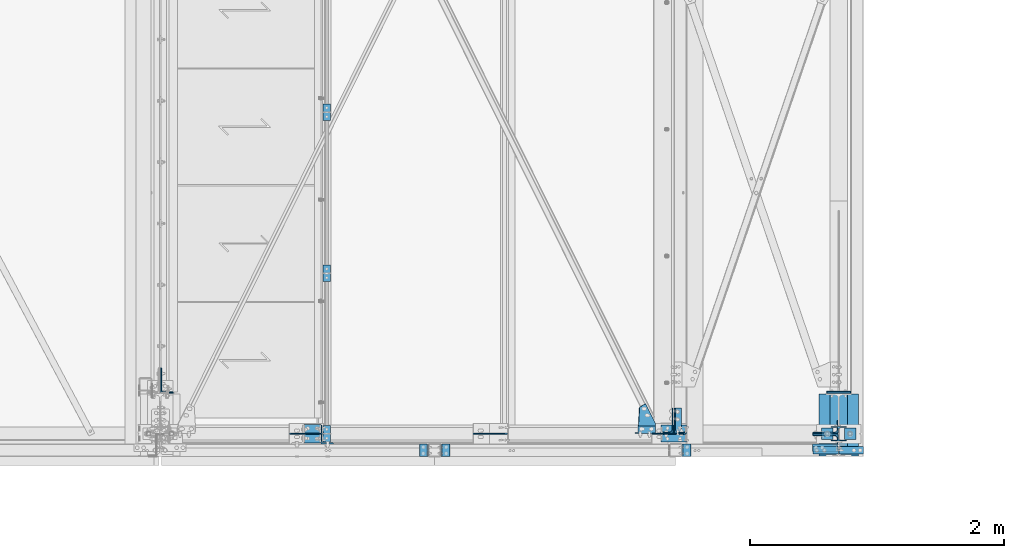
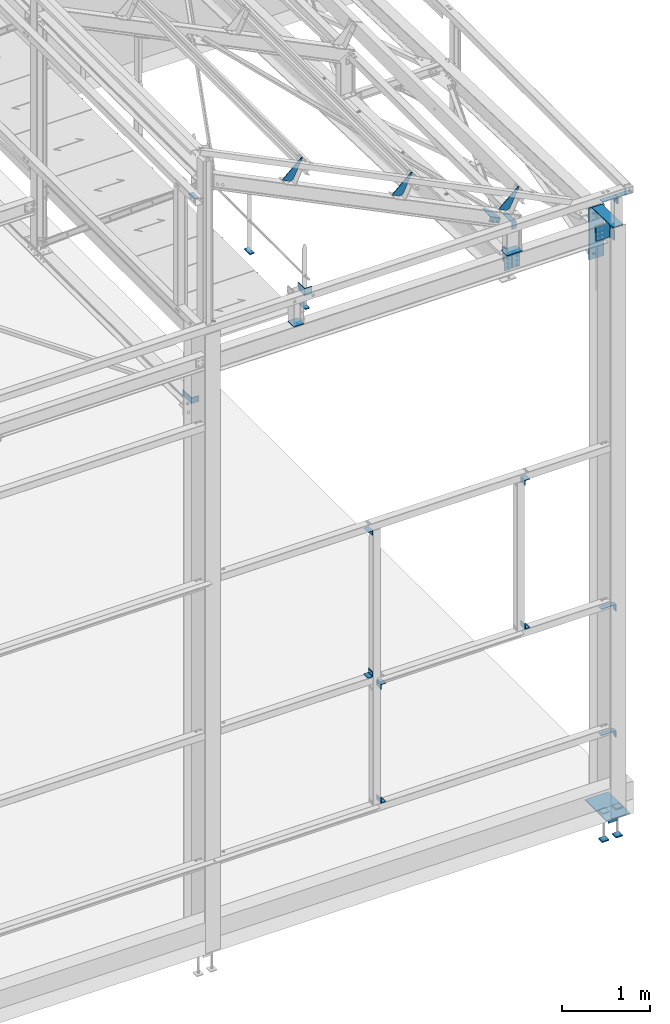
# One storey, part 105 of 362: 30 beams, 5 members, 28 elements without a shape of their own.
"""IFC2X3 building model written with IfcOpenShell, lengths in millimetres."""

from ifc_helpers import new_model, si_unit, frame, origin_with_axes, origin_2d_with_axis, place, context, subcontext, project, spatial, polyline, rectangle, i_section, l_section, outline, extrude, clip, halfspace, material, type_object, element, aggregate, save


model = new_model("IFC2X3")

# Units and contexts
model_context = context("Model", 3, precision=1e-05, world=origin_with_axes())
body_context = subcontext(model_context, "Body", "Model", "MODEL_VIEW")
ifc_project = project(units=[si_unit("LENGTHUNIT", "METRE", prefix="MILLI"), si_unit("AREAUNIT", "SQUARE_METRE"), si_unit("VOLUMEUNIT", "CUBIC_METRE"), si_unit("MASSUNIT", "GRAM", prefix="KILO"), si_unit("TIMEUNIT", "SECOND"), si_unit("PLANEANGLEUNIT", "RADIAN"), si_unit("SOLIDANGLEUNIT", "STERADIAN"), si_unit("THERMODYNAMICTEMPERATUREUNIT", "DEGREE_CELSIUS"), si_unit("LUMINOUSINTENSITYUNIT", "LUMEN")], contexts=[model_context])

# Site, building, storey
site_placement = place(None, origin_with_axes())
site = spatial("IfcSite", under=ifc_project, at=site_placement, Name="Undefined", CompositionType="ELEMENT")
building_placement = place(site_placement, origin_with_axes())
building = spatial("IfcBuilding", under=site, at=building_placement, Name="Undefined", CompositionType="ELEMENT")
storey_placement = place(building_placement, origin_with_axes())
storey = spatial("IfcBuildingStorey", under=building, at=storey_placement, Name="Undefined", CompositionType="ELEMENT", Elevation=0.0)

# Assembly, beams
assembly_1_placement = place(storey_placement, origin_with_axes())
assembly_1 = element("IfcElementAssembly", 1, at=assembly_1_placement, inside=storey, Name="MAIN COURANTE", AssemblyPlace="NOTDEFINED", PredefinedType="NOTDEFINED")
ifc_material_1 = material(Name="Undefined/S235-E24")
beam_type_1 = type_object("IfcBeamType", Name="PL10*60", PredefinedType="NOTDEFINED")
beam_1_placement = place(assembly_1_placement, frame((35593.9917124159, 64.9999991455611, 8245.00000819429), z_axis=(-1.0, 0.0, 0.0), x_axis=(0.0, -1.0, 0.0)))
beam_1 = element("IfcBeam", 2, at=beam_1_placement, type_object=beam_type_1, material=ifc_material_1, Name="PLATINE", ObjectType="PL10*60", context=body_context, shape_type="SweptSolid", body=[
    extrude(rectangle(XDim=10.0, YDim=60.0, at=origin_2d_with_axis()), frame((130.0, 0.0, 0.0), z_axis=(-1.0, 0.0, 0.0), x_axis=(0.0, -1.0, 0.0)), (0.0, 0.0, 1.0), 130.0),
])
beam_2_placement = place(assembly_1_placement, frame((35593.9917124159, 1330.00343196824, 8245.00000819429), z_axis=(-1.0, 0.0, 0.0), x_axis=(0.0, -1.0, 0.0)))
beam_2 = element("IfcBeam", 3, at=beam_2_placement, type_object=beam_type_1, material=ifc_material_1, Name="PLATINE", ObjectType="PL10*60", context=body_context, shape_type="SweptSolid", body=[
    extrude(rectangle(XDim=10.0, YDim=60.0, at=origin_2d_with_axis()), frame((130.0, 0.0, 0.0), z_axis=(-1.0, 0.0, 0.0), x_axis=(0.0, -1.0, 0.0)), (0.0, 0.0, 1.0), 130.0),
])
beam_3_placement = place(assembly_1_placement, frame((35593.991713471, 2600.00343196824, 8245.00000732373), z_axis=(-1.0, 0.0, 0.0), x_axis=(0.0, -1.0, 0.0)))
beam_3 = element("IfcBeam", 4, at=beam_3_placement, type_object=beam_type_1, material=ifc_material_1, Name="PLATINE", ObjectType="PL10*60", context=body_context, shape_type="SweptSolid", body=[
    extrude(rectangle(XDim=10.0, YDim=60.0, at=origin_2d_with_axis()), frame((130.0, 0.0, 0.0), z_axis=(-1.0, 0.0, 0.0), x_axis=(0.0, -1.0, 0.0)), (0.0, 0.0, 1.0), 130.0),
])
aggregate(assembly_1, [beam_1, beam_2, beam_3])

# Assembly, beam
assembly_2_placement = place(storey_placement, origin_with_axes())
assembly_2 = element("IfcElementAssembly", 5, at=assembly_2_placement, inside=storey, Name="TRAVERSE SHED", AssemblyPlace="NOTDEFINED", PredefinedType="NOTDEFINED")
beam_type_2 = type_object("IfcBeamType", Name="PL10*200", PredefinedType="NOTDEFINED")
beam_4_placement = place(assembly_2_placement, frame((38330.0, 70.7648225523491, 8052.7804668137), z_axis=(-1.0, 0.0, 0.0), x_axis=(0.0, -0.999506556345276, 0.031410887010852)))
beam_4 = element("IfcBeam", 6, at=beam_4_placement, type_object=beam_type_2, material=ifc_material_1, Name="PLATINE", ObjectType="PL10*200", context=body_context, shape_type="SweptSolid", body=[
    extrude(rectangle(XDim=10.0, YDim=200.0, at=origin_2d_with_axis()), frame((134.999999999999, 9.36750677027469e-16, 0.0), z_axis=(-1.0, 0.0, 0.0), x_axis=(0.0, -1.0, 0.0)), (0.0, 0.0, 1.0), 135.0),
])
aggregate(assembly_2, [beam_4])

assembly_3_placement = place(storey_placement, origin_with_axes())
assembly_3 = element("IfcElementAssembly", 7, at=assembly_3_placement, inside=storey, AssemblyPlace="NOTDEFINED", PredefinedType="NOTDEFINED")
beam_type_3 = type_object("IfcBeamType", Name="L70*7", PredefinedType="NOTDEFINED")
beam_5_placement = place(assembly_3_placement, frame((36530.0025822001, -180.000008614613, 1135.0), z_axis=(0.0, 0.0, 1.0), x_axis=(0.0, 1.0, 0.0)))
beam_5 = element("IfcBeam", 8, at=beam_5_placement, type_object=beam_type_3, material=ifc_material_1, Name="ATTACHE", ObjectType="L70*7", context=body_context, shape_type="SweptSolid", body=[
    extrude(l_section(Depth=70.0, Width=70.0, Thickness=7.0, FilletRadius=9.0, EdgeRadius=4.5, at=origin_2d_with_axis()), frame((99.9999999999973, -1.63709046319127e-11, 7.73070496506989e-12), z_axis=(-1.0, 0.0, 0.0), x_axis=(0.0, -1.0, 0.0)), (0.0, 0.0, 1.0), 100.0),
])
aggregate(assembly_3, [beam_5])

assembly_4_placement = place(storey_placement, origin_with_axes())
assembly_4 = element("IfcElementAssembly", 9, at=assembly_4_placement, inside=storey, AssemblyPlace="NOTDEFINED", PredefinedType="NOTDEFINED")
beam_6_placement = place(assembly_4_placement, frame((36530.0025836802, -80.0000086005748, 2725.0), z_axis=(0.0, 0.0, -1.0), x_axis=(0.0, -1.0, 0.0)))
beam_6 = element("IfcBeam", 10, at=beam_6_placement, type_object=beam_type_3, material=ifc_material_1, Name="ATTACHE", ObjectType="L70*7", context=body_context, shape_type="SweptSolid", body=[
    extrude(l_section(Depth=70.0, Width=70.0, Thickness=7.0, FilletRadius=9.0, EdgeRadius=4.5, at=origin_2d_with_axis()), frame((99.9999999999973, -1.63709046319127e-11, 7.73070496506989e-12), z_axis=(-1.0, 0.0, 0.0), x_axis=(0.0, -1.0, 0.0)), (0.0, 0.0, 1.0), 100.0),
])
aggregate(assembly_4, [beam_6])

assembly_5_placement = place(storey_placement, origin_with_axes())
assembly_5 = element("IfcElementAssembly", 11, at=assembly_5_placement, inside=storey, AssemblyPlace="NOTDEFINED", PredefinedType="NOTDEFINED")
beam_7_placement = place(assembly_5_placement, frame((38429.9947669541, -180.000008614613, 2895.0), z_axis=(0.0, 0.0, 1.0), x_axis=(0.0, 1.0, 0.0)))
beam_7 = element("IfcBeam", 12, at=beam_7_placement, type_object=beam_type_3, material=ifc_material_1, Name="ATTACHE", ObjectType="L70*7", context=body_context, shape_type="SweptSolid", body=[
    extrude(l_section(Depth=70.0, Width=70.0, Thickness=7.0, FilletRadius=9.0, EdgeRadius=4.5, at=origin_2d_with_axis()), frame((99.9999999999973, -1.63709046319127e-11, 7.73070496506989e-12), z_axis=(-1.0, 0.0, 0.0), x_axis=(0.0, -1.0, 0.0)), (0.0, 0.0, 1.0), 100.0),
])
aggregate(assembly_5, [beam_7])

assembly_6_placement = place(storey_placement, origin_with_axes())
assembly_6 = element("IfcElementAssembly", 13, at=assembly_6_placement, inside=storey, AssemblyPlace="NOTDEFINED", PredefinedType="NOTDEFINED")
beam_8_placement = place(assembly_6_placement, frame((38429.994766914, -80.0000086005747, 4905.0), z_axis=(0.0, 0.0, -1.0), x_axis=(0.0, -1.0, 0.0)))
beam_8 = element("IfcBeam", 14, at=beam_8_placement, type_object=beam_type_3, material=ifc_material_1, Name="ATTACHE", ObjectType="L70*7", context=body_context, shape_type="SweptSolid", body=[
    extrude(l_section(Depth=70.0, Width=70.0, Thickness=7.0, FilletRadius=9.0, EdgeRadius=4.5, at=origin_2d_with_axis()), frame((99.9999999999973, -1.63709046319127e-11, 7.73070496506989e-12), z_axis=(-1.0, 0.0, 0.0), x_axis=(0.0, -1.0, 0.0)), (0.0, 0.0, 1.0), 100.0),
])
aggregate(assembly_6, [beam_8])

assembly_7_placement = place(storey_placement, origin_with_axes())
assembly_7 = element("IfcElementAssembly", 15, at=assembly_7_placement, inside=storey, AssemblyPlace="NOTDEFINED", PredefinedType="NOTDEFINED")
beam_9_placement = place(assembly_7_placement, frame((36360.0025831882, -80.0000086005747, 2935.0), z_axis=(0.0, 0.0, 1.0), x_axis=(0.0, -1.0, 0.0)))
beam_9 = element("IfcBeam", 16, at=beam_9_placement, type_object=beam_type_3, material=ifc_material_1, Name="ATTACHE", ObjectType="L70*7", context=body_context, shape_type="SweptSolid", body=[
    extrude(l_section(Depth=70.0, Width=70.0, Thickness=7.0, FilletRadius=9.0, EdgeRadius=4.5, at=origin_2d_with_axis()), frame((99.9999999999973, -1.63709046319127e-11, 7.73070496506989e-12), z_axis=(-1.0, 0.0, 0.0), x_axis=(0.0, -1.0, 0.0)), (0.0, 0.0, 1.0), 100.0),
])
aggregate(assembly_7, [beam_9])

assembly_8_placement = place(storey_placement, origin_with_axes())
assembly_8 = element("IfcElementAssembly", 17, at=assembly_8_placement, inside=storey, AssemblyPlace="NOTDEFINED", PredefinedType="NOTDEFINED")
beam_10_placement = place(assembly_8_placement, frame((36360.0025836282, -180.000008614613, 4905.0), z_axis=(0.0, 0.0, -1.0), x_axis=(0.0, 1.0, 0.0)))
beam_10 = element("IfcBeam", 18, at=beam_10_placement, type_object=beam_type_3, material=ifc_material_1, Name="ATTACHE", ObjectType="L70*7", context=body_context, shape_type="SweptSolid", body=[
    extrude(l_section(Depth=70.0, Width=70.0, Thickness=7.0, FilletRadius=9.0, EdgeRadius=4.5, at=origin_2d_with_axis()), frame((99.9999999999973, -1.63709046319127e-11, 7.73070496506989e-12), z_axis=(-1.0, 0.0, 0.0), x_axis=(0.0, -1.0, 0.0)), (0.0, 0.0, 1.0), 100.0),
])
aggregate(assembly_8, [beam_10])

# Assembly, member
assembly_9_placement = place(storey_placement, origin_with_axes())
assembly_9 = element("IfcElementAssembly", 19, at=assembly_9_placement, inside=storey, AssemblyPlace="NOTDEFINED", PredefinedType="NOTDEFINED")
member_type_1 = type_object("IfcMemberType", Name="L60*6", PredefinedType="NOTDEFINED")
member_1_placement = place(assembly_9_placement, frame((38170.5286331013, 33.000281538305, 8526.02565738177), z_axis=(0.0, 1.0, 0.0), x_axis=(-0.897398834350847, -3.60000012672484e-08, 0.441220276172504)))
member_1 = element("IfcMember", 20, at=member_1_placement, type_object=member_type_1, material=ifc_material_1, Name="ATTACHE", ObjectType="L60*6", context=body_context, shape_type="SweptSolid", body=[
    extrude(l_section(Depth=60.0, Width=60.0, Thickness=6.0, FilletRadius=8.0, EdgeRadius=4.0, at=origin_2d_with_axis()), frame((150.0, 0.0, 0.0), z_axis=(-1.0, 0.0, 0.0), x_axis=(0.0, -1.0, 0.0)), (0.0, 0.0, 1.0), 150.0),
])
aggregate(assembly_9, [member_1])

# Assembly, beam
assembly_10_placement = place(storey_placement, origin_with_axes())
assembly_10 = element("IfcElementAssembly", 21, at=assembly_10_placement, inside=storey, Name="PANNE SHED", AssemblyPlace="NOTDEFINED", PredefinedType="NOTDEFINED")
beam_type_4 = type_object("IfcBeamType", Name="TOLE8*140", PredefinedType="NOTDEFINED")
beam_11_placement = place(assembly_10_placement, frame((38167.3881652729, 0.0, 8712.54750741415), z_axis=(0.0, -1.0, 0.0), x_axis=(-0.441220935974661, 0.0, -0.89739850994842)))
beam_11 = element("IfcBeam", 22, at=beam_11_placement, type_object=beam_type_4, material=ifc_material_1, Name="RAIDISSEUR", ObjectType="TOLE8*140", context=body_context, shape_type="SweptSolid", body=[
    extrude(outline(polyline([(0.0, 0.0), (19.9999999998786, -3.63797880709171e-12), (20.0000000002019, 109.999999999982), (-9.99999999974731, 139.99998998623), (-300.0000000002, 139.999893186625), (-300.000000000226, 119.999893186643), (0.0, 0.0)])), frame((0.0, 0.0, -4.0), z_axis=(0.0, 0.0, 1.0), x_axis=(1.0, 0.0, 0.0)), (0.0, 0.0, 1.0), 8.0),
])
aggregate(assembly_10, [beam_11])

assembly_11_placement = place(storey_placement, origin_with_axes())
assembly_11 = element("IfcElementAssembly", 23, at=assembly_11_placement, inside=storey, Name="PANNE SHED", AssemblyPlace="NOTDEFINED", PredefinedType="NOTDEFINED")
beam_12_placement = place(assembly_11_placement, frame((36758.937741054, 0.0, 9405.03563331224), z_axis=(0.0, -1.0, 0.0), x_axis=(-0.441220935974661, 0.0, -0.89739850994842)))
beam_12 = element("IfcBeam", 24, at=beam_12_placement, type_object=beam_type_4, material=ifc_material_1, Name="RAIDISSEUR", ObjectType="TOLE8*140", context=body_context, shape_type="SweptSolid", body=[
    extrude(outline(polyline([(0.0, 0.0), (19.9999999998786, -3.63797880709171e-12), (20.0000000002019, 109.999999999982), (-9.99999999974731, 139.99998998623), (-300.0000000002, 139.999893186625), (-300.000000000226, 119.999893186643), (0.0, 0.0)])), frame((0.0, 0.0, -4.0), z_axis=(0.0, 0.0, 1.0), x_axis=(1.0, 0.0, 0.0)), (0.0, 0.0, 1.0), 8.0),
])
aggregate(assembly_11, [beam_12])

assembly_12_placement = place(storey_placement, origin_with_axes())
assembly_12 = element("IfcElementAssembly", 25, at=assembly_12_placement, inside=storey, Name="PANNE SHED", AssemblyPlace="NOTDEFINED", PredefinedType="NOTDEFINED")
beam_13_placement = place(assembly_12_placement, frame((35310.1044072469, 0.0, 10117.3786897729), z_axis=(0.0, -1.0, 0.0), x_axis=(-0.441220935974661, 0.0, -0.89739850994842)))
beam_13 = element("IfcBeam", 26, at=beam_13_placement, type_object=beam_type_4, material=ifc_material_1, Name="RAIDISSEUR", ObjectType="TOLE8*140", context=body_context, shape_type="SweptSolid", body=[
    extrude(outline(polyline([(0.0, 0.0), (19.9999999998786, -3.63797880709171e-12), (20.0000000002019, 109.999999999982), (-9.99999999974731, 139.99998998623), (-300.0000000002, 139.999893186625), (-300.000000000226, 119.999893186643), (0.0, 0.0)])), frame((0.0, 0.0, -4.0), z_axis=(0.0, 0.0, 1.0), x_axis=(1.0, 0.0, 0.0)), (0.0, 0.0, 1.0), 8.0),
])
aggregate(assembly_12, [beam_13])

# Assembly, member
assembly_13_placement = place(storey_placement, origin_with_axes())
assembly_13 = element("IfcElementAssembly", 27, at=assembly_13_placement, inside=storey, AssemblyPlace="NOTDEFINED", PredefinedType="NOTDEFINED")
member_type_2 = type_object("IfcMemberType", Name="L200*100*10", PredefinedType="NOTDEFINED")
member_2_placement = place(assembly_13_placement, frame((38385.000458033, 105.335761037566, 8006.67334803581), z_axis=(3.14103090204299e-11, 0.999506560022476, -0.0314107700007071), x_axis=(-1.05403257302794e-09, -0.0314112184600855, -0.999506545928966)))
member_2 = element("IfcMember", 28, at=member_2_placement, type_object=member_type_2, material=ifc_material_1, Name="ATTACHE", ObjectType="L200*100*10", context=body_context, shape_type="SweptSolid", body=[
    extrude(l_section(Depth=200.0, Width=100.0, Thickness=10.0, FilletRadius=15.0, EdgeRadius=7.5, at=origin_2d_with_axis()), frame((200.0, 0.0, 0.0), z_axis=(-1.0, 0.0, 0.0), x_axis=(0.0, -1.0, 0.0)), (0.0, 0.0, 1.0), 200.0),
])
aggregate(assembly_13, [member_2])

assembly_14_placement = place(storey_placement, origin_with_axes())
assembly_14 = element("IfcElementAssembly", 29, at=assembly_14_placement, inside=storey, AssemblyPlace="NOTDEFINED", PredefinedType="NOTDEFINED")
member_3_placement = place(assembly_14_placement, frame((38274.9995419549, 99.0535857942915, 7806.77206708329), z_axis=(3.14103090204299e-11, 0.999506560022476, -0.0314107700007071), x_axis=(7.58071938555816e-11, 0.0314107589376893, 0.999506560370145)))
member_3 = element("IfcMember", 30, at=member_3_placement, type_object=member_type_2, material=ifc_material_1, Name="ATTACHE", ObjectType="L200*100*10", context=body_context, shape_type="SweptSolid", body=[
    extrude(l_section(Depth=200.0, Width=100.0, Thickness=10.0, FilletRadius=15.0, EdgeRadius=7.5, at=origin_2d_with_axis()), frame((200.0, 0.0, 0.0), z_axis=(-1.0, 0.0, 0.0), x_axis=(0.0, -1.0, 0.0)), (0.0, 0.0, 1.0), 200.0),
])
aggregate(assembly_14, [member_3])

assembly_15_placement = place(storey_placement, origin_with_axes())
assembly_15 = element("IfcElementAssembly", 31, at=assembly_15_placement, inside=storey, AssemblyPlace="NOTDEFINED", PredefinedType="NOTDEFINED")
member_4_placement = place(assembly_15_placement, frame((39524.9978557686, 55.3568546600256, 8008.24400343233), z_axis=(-1.0, 0.0, 0.0), x_axis=(-1.05403257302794e-09, -0.0314112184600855, -0.999506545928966)))
member_4 = element("IfcMember", 32, at=member_4_placement, type_object=member_type_2, material=ifc_material_1, Name="ATTACHE", ObjectType="L200*100*10", context=body_context, shape_type="SweptSolid", body=[
    extrude(l_section(Depth=200.0, Width=100.0, Thickness=10.0, FilletRadius=15.0, EdgeRadius=7.5, at=origin_2d_with_axis()), frame((200.0, 0.0, 0.0), z_axis=(-1.0, 0.0, 0.0), x_axis=(0.0, -1.0, 0.0)), (0.0, 0.0, 1.0), 200.0),
])
aggregate(assembly_15, [member_4])

assembly_16_placement = place(storey_placement, origin_with_axes())
assembly_16 = element("IfcElementAssembly", 33, at=assembly_16_placement, inside=storey, AssemblyPlace="NOTDEFINED", PredefinedType="NOTDEFINED")
member_5_placement = place(assembly_16_placement, frame((39524.9978557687, -57.8734159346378, 7811.70370294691), z_axis=(-1.0, 0.0, 0.0), x_axis=(7.58071938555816e-11, 0.0314107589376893, 0.999506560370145)))
member_5 = element("IfcMember", 34, at=member_5_placement, type_object=member_type_2, material=ifc_material_1, Name="ATTACHE", ObjectType="L200*100*10", context=body_context, shape_type="SweptSolid", body=[
    extrude(l_section(Depth=200.0, Width=100.0, Thickness=10.0, FilletRadius=15.0, EdgeRadius=7.5, at=origin_2d_with_axis()), frame((200.0, 0.0, 0.0), z_axis=(-1.0, 0.0, 0.0), x_axis=(0.0, -1.0, 0.0)), (0.0, 0.0, 1.0), 200.0),
])
aggregate(assembly_16, [member_5])

# Assembly, beam
assembly_17_placement = place(storey_placement, origin_with_axes())
assembly_17 = element("IfcElementAssembly", 35, at=assembly_17_placement, inside=storey, Name="MONTANT", AssemblyPlace="NOTDEFINED", PredefinedType="NOTDEFINED")
beam_type_5 = type_object("IfcBeamType", Name="PL10*133", PredefinedType="NOTDEFINED")
beam_14_placement = place(assembly_17_placement, frame((35479.991714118, 72.8414651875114, 8052.71520566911), z_axis=(-1.0, 0.0, 0.0), x_axis=(0.0, -0.999506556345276, 0.031410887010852)))
beam_14 = element("IfcBeam", 36, at=beam_14_placement, type_object=beam_type_5, material=ifc_material_1, Name="PLATINE", ObjectType="PL10*133", context=body_context, shape_type="SweptSolid", body=[
    extrude(rectangle(XDim=10.0, YDim=133.0, at=origin_2d_with_axis()), frame((146.06911441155, 1.01355808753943e-15, 3.02063848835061e-23), z_axis=(-1.0, 0.0, 0.0), x_axis=(0.0, -1.0, 0.0)), (0.0, 0.0, 1.0), 146.07),
])
aggregate(assembly_17, [beam_14])

assembly_18_placement = place(storey_placement, origin_with_axes())
assembly_18 = element("IfcElementAssembly", 37, at=assembly_18_placement, inside=storey, AssemblyPlace="NOTDEFINED", PredefinedType="NOTDEFINED")
beam_type_6 = type_object("IfcBeamType", Name="L200*100*10", PredefinedType="NOTDEFINED")
beam_15_placement = place(assembly_18_placement, frame((35596.4917140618, 20.0, 8550.0), z_axis=(0.0, 1.0, 0.0), x_axis=(0.0, 0.0, -1.0)))
beam_15 = element("IfcBeam", 38, at=beam_15_placement, type_object=beam_type_6, material=ifc_material_1, Name="ATTACHE", ObjectType="L200*100*10", context=body_context, shape_type="Clipping", body=[
    clip(extrude(l_section(Depth=200.0, Width=100.0, Thickness=10.0, FilletRadius=15.0, EdgeRadius=7.5, at=origin_2d_with_axis()), frame((99.9999999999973, -1.63709046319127e-11, 7.73070496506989e-12), z_axis=(-1.0, 0.0, 0.0), x_axis=(0.0, -1.0, 0.0)), (0.0, 0.0, 1.0), 100.0), halfspace(frame((0.0, 50.0, 50.0001436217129), z_axis=(0.0, 0.0, 1.0), x_axis=(1.0, 0.0, 0.0)), False)),
])
aggregate(assembly_18, [beam_15])

assembly_19_placement = place(storey_placement, origin_with_axes())
assembly_19 = element("IfcElementAssembly", 39, at=assembly_19_placement, inside=storey, AssemblyPlace="NOTDEFINED", PredefinedType="NOTDEFINED")
beam_16_placement = place(assembly_19_placement, frame((39733.0000011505, -160.000006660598, 8400.0), z_axis=(1.0, 0.0, 0.0), x_axis=(0.0, 1.0, 0.0)))
beam_16 = element("IfcBeam", 40, at=beam_16_placement, type_object=beam_type_6, material=ifc_material_1, Name="ATTACHE", ObjectType="L200*100*10", context=body_context, shape_type="Clipping", body=[
    clip(extrude(l_section(Depth=200.0, Width=100.0, Thickness=10.0, FilletRadius=15.0, EdgeRadius=7.5, at=origin_2d_with_axis()), frame((60.0, 0.0, 0.0), z_axis=(-1.0, 0.0, 0.0), x_axis=(0.0, -1.0, 0.0)), (0.0, 0.0, 1.0), 60.0), halfspace(frame((59.999999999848, 50.0000000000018, 91.9999998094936), z_axis=(0.0, 0.0, 1.0), x_axis=(0.0, -1.0, 0.0)), False)),
])
aggregate(assembly_19, [beam_16])

assembly_20_placement = place(storey_placement, origin_with_axes())
assembly_20 = element("IfcElementAssembly", 41, at=assembly_20_placement, inside=storey, AssemblyPlace="NOTDEFINED", PredefinedType="NOTDEFINED")
beam_17_placement = place(assembly_20_placement, frame((39526.9999976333, -100.000007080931, 8400.0), z_axis=(-1.0, 0.0, 0.0), x_axis=(0.0, -1.0, 0.0)))
beam_17 = element("IfcBeam", 42, at=beam_17_placement, type_object=beam_type_6, material=ifc_material_1, Name="ATTACHE", ObjectType="L200*100*10", context=body_context, shape_type="SweptSolid", body=[
    extrude(l_section(Depth=200.0, Width=100.0, Thickness=10.0, FilletRadius=15.0, EdgeRadius=7.5, at=origin_2d_with_axis()), frame((60.0, 0.0, 0.0), z_axis=(-1.0, 0.0, 0.0), x_axis=(0.0, -1.0, 0.0)), (0.0, 0.0, 1.0), 60.0),
])
aggregate(assembly_20, [beam_17])

assembly_21_placement = place(storey_placement, origin_with_axes())
assembly_21 = element("IfcElementAssembly", 43, at=assembly_21_placement, inside=storey, AssemblyPlace="NOTDEFINED", PredefinedType="NOTDEFINED")
beam_18_placement = place(assembly_21_placement, frame((38390.0, 103.499999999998, 8400.0), z_axis=(0.0, 1.0, 0.0), x_axis=(-1.0, 0.0, 0.0)))
beam_18 = element("IfcBeam", 44, at=beam_18_placement, type_object=beam_type_6, material=ifc_material_1, Name="ATTACHE", ObjectType="L200*100*10", context=body_context, shape_type="SweptSolid", body=[
    extrude(l_section(Depth=200.0, Width=100.0, Thickness=10.0, FilletRadius=15.0, EdgeRadius=7.5, at=origin_2d_with_axis()), frame((60.0, 0.0, 0.0), z_axis=(-1.0, 0.0, 0.0), x_axis=(0.0, -1.0, 0.0)), (0.0, 0.0, 1.0), 60.0),
])
aggregate(assembly_21, [beam_18])

assembly_22_placement = place(storey_placement, origin_with_axes())
assembly_22 = element("IfcElementAssembly", 45, at=assembly_22_placement, inside=storey, AssemblyPlace="NOTDEFINED", PredefinedType="NOTDEFINED")
beam_19_placement = place(assembly_22_placement, frame((34333.4999999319, 419.997272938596, 7223.49999223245), z_axis=(0.0, 1.0, 0.0), x_axis=(0.0, 0.0, -1.0)))
beam_19 = element("IfcBeam", 46, at=beam_19_placement, type_object=beam_type_6, material=ifc_material_1, Name="ATTACHE", ObjectType="L200*100*10", context=body_context, shape_type="SweptSolid", body=[
    extrude(l_section(Depth=200.0, Width=100.0, Thickness=10.0, FilletRadius=15.0, EdgeRadius=7.5, at=origin_2d_with_axis()), frame((80.0, 0.0, 0.0), z_axis=(-1.0, 0.0, 0.0), x_axis=(0.0, -1.0, 0.0)), (0.0, 0.0, 1.0), 80.0),
])
aggregate(assembly_22, [beam_19])

assembly_23_placement = place(storey_placement, origin_with_axes())
assembly_23 = element("IfcElementAssembly", 47, at=assembly_23_placement, inside=storey, AssemblyPlace="NOTDEFINED", PredefinedType="NOTDEFINED")
beam_20_placement = place(assembly_23_placement, frame((39525.0000032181, -80.000006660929, 950.000037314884), z_axis=(-1.0, 0.0, 0.0), x_axis=(0.0, -1.0, 0.0)))
beam_20 = element("IfcBeam", 48, at=beam_20_placement, type_object=beam_type_6, material=ifc_material_1, Name="ATTACHE", ObjectType="L200*100*10", context=body_context, shape_type="SweptSolid", body=[
    extrude(l_section(Depth=200.0, Width=100.0, Thickness=10.0, FilletRadius=15.0, EdgeRadius=7.5, at=origin_2d_with_axis()), frame((60.0, 0.0, 0.0), z_axis=(-1.0, 0.0, 0.0), x_axis=(0.0, -1.0, 0.0)), (0.0, 0.0, 1.0), 60.0),
])
aggregate(assembly_23, [beam_20])

assembly_24_placement = place(storey_placement, origin_with_axes())
assembly_24 = element("IfcElementAssembly", 49, at=assembly_24_placement, inside=storey, AssemblyPlace="NOTDEFINED", PredefinedType="NOTDEFINED")
beam_21_placement = place(assembly_24_placement, frame((39525.0000023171, -80.000006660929, 2710.00003731), z_axis=(-1.0, 0.0, 0.0), x_axis=(0.0, -1.0, 0.0)))
beam_21 = element("IfcBeam", 50, at=beam_21_placement, type_object=beam_type_6, material=ifc_material_1, Name="ATTACHE", ObjectType="L200*100*10", context=body_context, shape_type="SweptSolid", body=[
    extrude(l_section(Depth=200.0, Width=100.0, Thickness=10.0, FilletRadius=15.0, EdgeRadius=7.5, at=origin_2d_with_axis()), frame((60.0, 0.0, 0.0), z_axis=(-1.0, 0.0, 0.0), x_axis=(0.0, -1.0, 0.0)), (0.0, 0.0, 1.0), 60.0),
])
aggregate(assembly_24, [beam_21])

assembly_25_placement = place(storey_placement, origin_with_axes())
assembly_25 = element("IfcElementAssembly", 51, at=assembly_25_placement, inside=storey, Name="POTEAU", AssemblyPlace="NOTDEFINED", PredefinedType="NOTDEFINED")
beam_type_7 = type_object("IfcBeamType", Name="PL10*135", PredefinedType="NOTDEFINED")
beam_22_placement = place(assembly_25_placement, frame((39629.9999999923, 312.157053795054, 8035.18760098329), z_axis=(-1.0, 0.0, 0.0), x_axis=(0.0, -0.999506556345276, 0.031410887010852)))
beam_22 = element("IfcBeam", 52, at=beam_22_placement, type_object=beam_type_7, material=ifc_material_1, Name="COIFFE", ObjectType="PL10*135", context=body_context, shape_type="SweptSolid", body=[
    extrude(rectangle(XDim=10.0, YDim=135.0, at=origin_2d_with_axis()), frame((484.238942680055, 0.0, 0.0), z_axis=(-1.0, 0.0, 0.0), x_axis=(0.0, -1.0, 0.0)), (0.0, 0.0, 1.0), 484.24),
])

assembly_26_placement = place(storey_placement, origin_with_axes())
assembly_26 = element("IfcElementAssembly", 53, at=assembly_26_placement, inside=storey, Name="TRAVERSE", AssemblyPlace="NOTDEFINED", PredefinedType="NOTDEFINED")
beam_type_8 = type_object("IfcBeamType", Name="PL15*190", PredefinedType="NOTDEFINED")
beam_23_placement = place(assembly_26_placement, frame((39630.0, 327.5, 8029.93865805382), z_axis=(1.0, 0.0, 0.0), x_axis=(0.0, 0.0, -1.0)))
beam_23 = element("IfcBeam", 54, at=beam_23_placement, type_object=beam_type_8, material=ifc_material_1, Name="PLATINE", ObjectType="PL15*190", context=body_context, shape_type="SweptSolid", body=[
    extrude(rectangle(XDim=15.0, YDim=190.0, at=origin_2d_with_axis()), frame((720.0, 0.0, 0.0), z_axis=(-1.0, 0.0, 0.0), x_axis=(0.0, -1.0, 0.0)), (0.0, 0.0, 1.0), 720.0),
])
aggregate(assembly_26, [beam_23])

assembly_27_placement = place(storey_placement, origin_with_axes())
assembly_27 = element("IfcElementAssembly", 55, at=assembly_27_placement, inside=storey, AssemblyPlace="NOTDEFINED", PredefinedType="NOTDEFINED")
beam_type_9 = type_object("IfcBeamType", Name="TOLE6*164", PredefinedType="NOTDEFINED")
beam_24_placement = place(assembly_27_placement, frame((38059.1850326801, 209.25899062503, 8617.54250803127), z_axis=(-0.441220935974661, 0.0, -0.89739850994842), x_axis=(0.784869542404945, 0.484835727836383, -0.385893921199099)))
beam_24 = element("IfcBeam", 56, at=beam_24_placement, type_object=beam_type_9, material=ifc_material_1, Name="GOUSSET", ObjectType="TOLE6*164", context=body_context, shape_type="SweptSolid", body=[
    extrude(outline(polyline([(0.0, 0.0), (60.0, 0.0), (60.000000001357, 181.13842773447), (27.5527534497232, 239.6707305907), (-103.638031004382, 166.945343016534), (-79.3962478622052, 123.215103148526), (0.0, 0.0)])), frame((0.0, 0.0, -3.0), z_axis=(0.0, 0.0, 1.0), x_axis=(1.0, 0.0, 0.0)), (0.0, 0.0, 1.0), 6.0),
])
aggregate(assembly_27, [beam_24])

# Beam
beam_type_10 = type_object("IfcBeamType", Name="PL15*490", PredefinedType="NOTDEFINED")
beam_25_placement = place(assembly_25_placement, frame((39784.9971504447, 70.0, -192.5), z_axis=(0.0, -1.0, 0.0), x_axis=(-1.0, 0.0, 0.0)))
beam_25 = element("IfcBeam", 57, at=beam_25_placement, type_object=beam_type_10, material=ifc_material_1, Name="PLATINE", ObjectType="PL15*490", context=body_context, shape_type="SweptSolid", body=[
    extrude(rectangle(XDim=15.0, YDim=490.0, at=origin_2d_with_axis()), frame((310.0, 0.0, 0.0), z_axis=(-1.0, 0.0, 0.0), x_axis=(0.0, -1.0, 0.0)), (0.0, 0.0, 1.0), 310.0),
])

aggregate(assembly_25, [beam_25, beam_22])

# Assembly, beams
assembly_28_placement = place(storey_placement, origin_with_axes())
assembly_28 = element("IfcElementAssembly", 58, at=assembly_28_placement, inside=storey, Name="PRESCELLEMENT PS24", AssemblyPlace="NOTDEFINED", PredefinedType="NOTDEFINED")
beam_type_11 = type_object("IfcBeamType", Name="PL15*90", PredefinedType="NOTDEFINED")
beam_26_placement = place(assembly_28_placement, frame((39584.9971504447, -45.0, -177.5), z_axis=(0.0, 0.0, 1.0), x_axis=(0.0, 1.0, 0.0)))
beam_26 = element("IfcBeam", 59, at=beam_26_placement, type_object=beam_type_11, material=ifc_material_1, Name="PLAQUETTE", ObjectType="PL15*90", context=body_context, shape_type="SweptSolid", body=[
    extrude(outline(polyline([(0.0, 0.0), (90.0, 0.0), (90.0, 90.0), (0.0, 90.0), (0.0, 0.0)])), frame((0.0, 0.0, -7.5), z_axis=(0.0, 0.0, 1.0), x_axis=(1.0, 0.0, 0.0)), (0.0, 0.0, 1.0), 15.0),
])
beam_27_placement = place(assembly_28_placement, frame((39764.9971504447, -45.0, -177.5), z_axis=(0.0, 0.0, 1.0), x_axis=(0.0, 1.0, 0.0)))
beam_27 = element("IfcBeam", 60, at=beam_27_placement, type_object=beam_type_11, material=ifc_material_1, Name="PLAQUETTE", ObjectType="PL15*90", context=body_context, shape_type="SweptSolid", body=[
    extrude(outline(polyline([(0.0, 0.0), (90.0, 0.0), (90.0, 90.0), (0.0, 90.0), (0.0, 0.0)])), frame((0.0, 0.0, -7.5), z_axis=(0.0, 0.0, 1.0), x_axis=(1.0, 0.0, 0.0)), (0.0, 0.0, 1.0), 15.0),
])
beam_28_placement = place(assembly_28_placement, frame((39584.9971504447, -45.0, -572.5), z_axis=(0.0, 0.0, 1.0), x_axis=(0.0, 1.0, 0.0)))
beam_28 = element("IfcBeam", 61, at=beam_28_placement, type_object=beam_type_11, material=ifc_material_1, Name="PLAQUETTE", ObjectType="PL15*90", context=body_context, shape_type="SweptSolid", body=[
    extrude(outline(polyline([(0.0, 0.0), (90.0, 0.0), (90.0, 90.0), (0.0, 90.0), (0.0, 0.0)])), frame((0.0, 0.0, -7.5), z_axis=(0.0, 0.0, 1.0), x_axis=(1.0, 0.0, 0.0)), (0.0, 0.0, 1.0), 15.0),
])
beam_29_placement = place(assembly_28_placement, frame((39764.9971504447, -45.0, -572.5), z_axis=(0.0, 0.0, 1.0), x_axis=(0.0, 1.0, 0.0)))
beam_29 = element("IfcBeam", 62, at=beam_29_placement, type_object=beam_type_11, material=ifc_material_1, Name="PLAQUETTE", ObjectType="PL15*90", context=body_context, shape_type="SweptSolid", body=[
    extrude(outline(polyline([(0.0, 0.0), (90.0, 0.0), (90.0, 90.0), (0.0, 90.0), (0.0, 0.0)])), frame((0.0, 0.0, -7.5), z_axis=(0.0, 0.0, 1.0), x_axis=(1.0, 0.0, 0.0)), (0.0, 0.0, 1.0), 15.0),
])
ifc_material_2 = material(Name="Undefined/S275-E28")
beam_type_12 = type_object("IfcBeamType", Name="HEA120", PredefinedType="NOTDEFINED")
beam_30_placement = place(assembly_28_placement, frame((39630.0000000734, 0.0, -210.0), z_axis=(0.0, -1.0, 0.0), x_axis=(0.0, 0.0, -1.0)))
beam_30 = element("IfcBeam", 63, at=beam_30_placement, type_object=beam_type_12, material=ifc_material_2, Name="BECHE", ObjectType="HEA120", context=body_context, shape_type="SweptSolid", body=[
    extrude(i_section(OverallWidth=120.0, OverallDepth=114.0, WebThickness=5.0, FlangeThickness=8.0, FilletRadius=12.0, at=origin_2d_with_axis()), frame((120.0, 0.0, 0.0), z_axis=(-1.0, 0.0, 0.0), x_axis=(0.0, -1.0, 0.0)), (0.0, 0.0, 1.0), 120.0),
])
aggregate(assembly_28, [beam_30, beam_26, beam_27, beam_28, beam_29])

save(model, "model.ifc")
